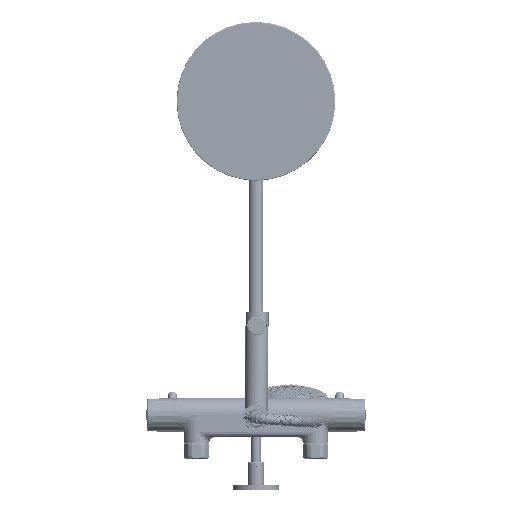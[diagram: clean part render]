
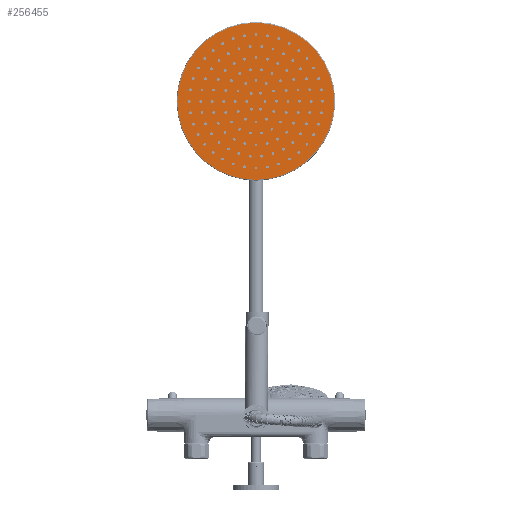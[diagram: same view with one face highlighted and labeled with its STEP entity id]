
A CAD part, front view. The second image highlights one B-rep face of the part: STEP entity #256455.
In plain terms, the highlighted planar face has unit normal (0, -1, 0).
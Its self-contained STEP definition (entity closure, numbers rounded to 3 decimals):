
#256384=CARTESIAN_POINT('',(0.,1114.5,400.));
#256385=DIRECTION('',(0.,1.,0.));
#256386=DIRECTION('',(1.,0.,0.));
#256387=AXIS2_PLACEMENT_3D('',#256384,#256385,#256386);
#256389=CARTESIAN_POINT('',(0.,1114.5,400.));
#256390=DIRECTION('',(0.,1.,0.));
#256391=DIRECTION('',(-1.,0.,0.));
#256392=AXIS2_PLACEMENT_3D('',#256389,#256390,#256391);
#256440=CARTESIAN_POINT('',(99.,1114.5,400.));
#256441=CARTESIAN_POINT('',(-99.,1114.5,400.));
#256442=VERTEX_POINT('',#256440);
#256443=VERTEX_POINT('',#256441);
#256444=CARTESIAN_POINT('',(0.,1114.5,400.));
#256445=DIRECTION('',(0.,-1.,0.));
#256446=DIRECTION('',(-1.,0.,0.));
#256447=AXIS2_PLACEMENT_3D('',#256444,#256445,#256446);
#256448=PLANE('',#256447);
#256450=ORIENTED_EDGE('',*,*,#256449,.T.);
#256452=ORIENTED_EDGE('',*,*,#256451,.T.);
#256453=EDGE_LOOP('',(#256450,#256452));
#256454=FACE_OUTER_BOUND('',#256453,.F.);
#256455=ADVANCED_FACE('',(#256454),#256448,.T.);
#256388=CIRCLE('',#256387,99.);
#256393=CIRCLE('',#256392,99.);
#256449=EDGE_CURVE('',#256442,#256443,#256388,.T.);
#256451=EDGE_CURVE('',#256443,#256442,#256393,.T.);
